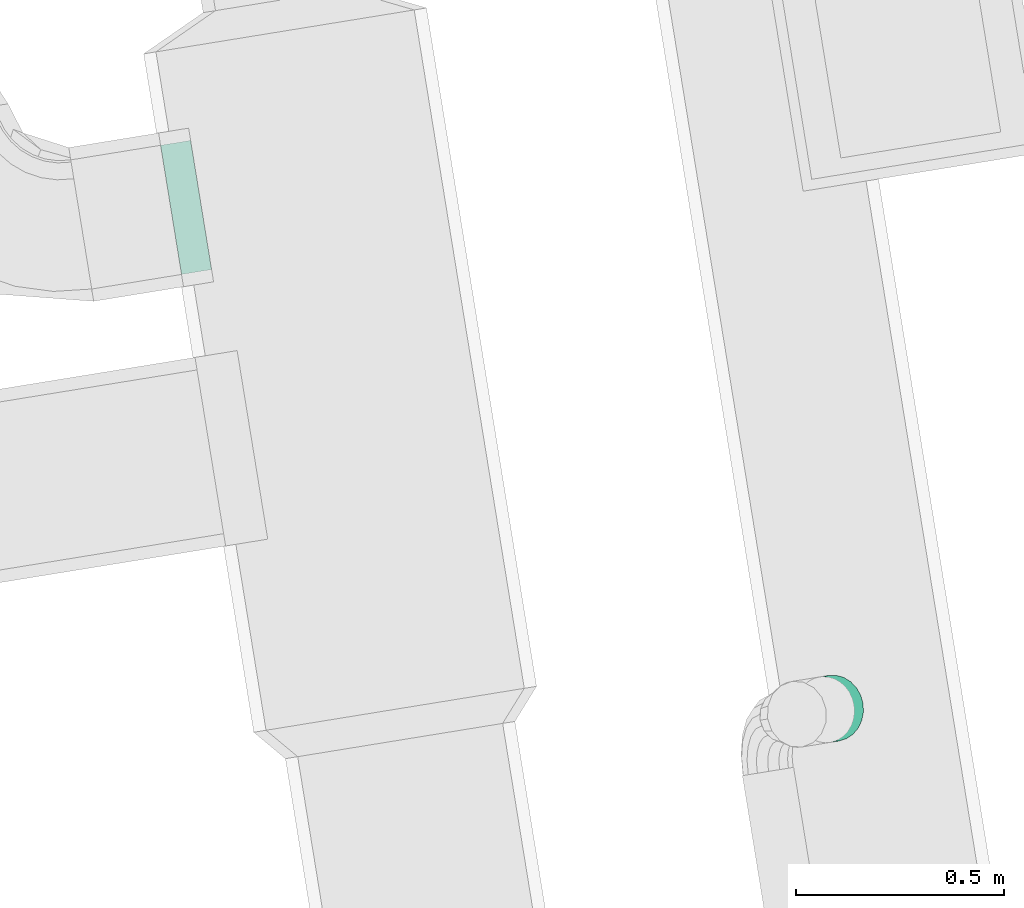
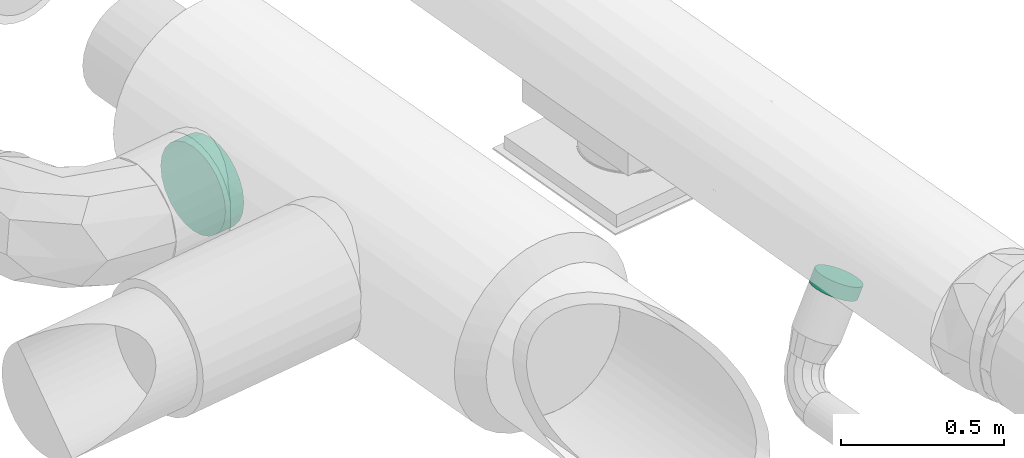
# One storey, part 34 of 39: 2 flow fittings.
"""IFC2X3 building model written with IfcOpenShell, lengths in millimetres."""

from ifc_helpers import new_model, entity, si_unit, converted_unit, derived_unit, direction, frame, origin, origin_with_axes, place, context, subcontext, project, spatial, faceted_brep, source, transform, mapped, material, type_object, element, save


model = new_model("IFC2X3")

# Units and contexts
plan_context = context("Plan", 3, precision=1e-05, world=origin_with_axes())
model_context = context("Model", 3, precision=0.01, world=origin(), true_north=direction((6.12323399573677e-17, 1.0)))
body_context = subcontext(model_context, "Body", "Model", "MODEL_VIEW")
ifc_project = project(units=[converted_unit("PLANEANGLEUNIT", "DEGREE", entity("IfcPositiveLengthMeasure", 0.0174532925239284), si_unit("PLANEANGLEUNIT", "RADIAN"), dimensions=[0, 0, 0, 0, 0, 0, 0]), si_unit("AREAUNIT", "SQUARE_METRE"), si_unit("LENGTHUNIT", "METRE", prefix="MILLI"), si_unit("MASSUNIT", "GRAM", prefix="KILO"), si_unit("POWERUNIT", "WATT"), si_unit("PRESSUREUNIT", "PASCAL", prefix="KILO"), si_unit("FORCEUNIT", "NEWTON", prefix="KILO"), si_unit("ELECTRICVOLTAGEUNIT", "VOLT"), si_unit("ELECTRICCURRENTUNIT", "AMPERE"), si_unit("THERMODYNAMICTEMPERATUREUNIT", "DEGREE_CELSIUS"), si_unit("TIMEUNIT", "SECOND"), si_unit("VOLUMEUNIT", "CUBIC_METRE"), derived_unit("LINEARVELOCITYUNIT", [(si_unit("LENGTHUNIT", "METRE"), 1), (si_unit("TIMEUNIT", "SECOND"), -1)]), derived_unit("VOLUMETRICFLOWRATEUNIT", [(si_unit("VOLUMEUNIT", "CUBIC_METRE"), 1), (si_unit("TIMEUNIT", "SECOND"), -1)]), derived_unit("THERMALTRANSMITTANCEUNIT", [(si_unit("POWERUNIT", "WATT"), 1), (si_unit("THERMODYNAMICTEMPERATUREUNIT", "KELVIN"), -1), (si_unit("AREAUNIT", "SQUARE_METRE"), -1)]), derived_unit("SOUNDPRESSUREUNIT", [(si_unit("PRESSUREUNIT", "PASCAL"), 1)])], contexts=[model_context, plan_context])

# Site, building, storey
site_placement = place(None, frame((-0.00071070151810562, 0.00438415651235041, 0.0), z_axis=(0.0, 0.0, 1.0), x_axis=(-0.160236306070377, 0.987078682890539, 0.0)))
site = spatial("IfcSite", under=ifc_project, at=site_placement, Name="Default", CompositionType="ELEMENT")
building_placement = place(site_placement, origin_with_axes())
building = spatial("IfcBuilding", under=site, at=building_placement, CompositionType="ELEMENT")
storey_placement = place(building_placement, frame((0.0, 0.0, 58999.9999999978), z_axis=(0.0, 0.0, 1.0), x_axis=(1.0, 0.0, 0.0)))
storey = spatial("IfcBuildingStorey", under=building, at=storey_placement, Name="Nivå F", CompositionType="ELEMENT", Elevation=58999.9999999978)

# Flow fittings
ifc_material = material(Name="<Unnamed>")
duct_fitting_type_1 = type_object("IfcDuctFittingType", Name="magicirc_tapoutlet_1:magicirc_tapoutlet_001", PredefinedType="NOTDEFINED", material=ifc_material)
shared_shape_1 = source(origin(), body_context, "Body", "Brep", [
    faceted_brep([(-48.3177170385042, 0.0, -157.500000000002), (-48.3177170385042, -40.7639996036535, -152.133317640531), (-48.3177170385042, -78.7500000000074, -136.399001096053), (-48.3177170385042, -111.36931803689, -111.369318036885), (-48.3177170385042, -136.399001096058, -78.7500000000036), (-48.3177170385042, -152.133317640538, -40.7639996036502), (-48.3177170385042, -157.500000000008, 0.0), (-48.3177170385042, -152.133317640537, 40.7639996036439), (-48.3177170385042, -136.399001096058, 78.749999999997), (-48.3177170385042, -111.36931803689, 111.369318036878), (-48.3177170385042, -78.7500000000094, 136.399001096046), (-48.3177170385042, -40.7639996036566, 152.133317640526), (-48.3177170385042, 0.0, 157.499999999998), (-48.3177170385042, 40.7639996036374, 152.133317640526), (-48.3177170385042, 78.7499999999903, 136.399001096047), (-48.3177170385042, 111.369318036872, 111.36931803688), (-48.3177170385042, 136.39900109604, 78.7499999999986), (-48.3177170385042, 152.133317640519, 40.7639996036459), (-48.3177170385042, 157.499999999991, 0.0), (-48.3177170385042, 152.13331764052, -40.7639996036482), (-48.3177170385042, 136.399001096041, -78.7500000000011), (-48.3177170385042, 111.369318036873, -111.369318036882), (-48.3177170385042, 78.7499999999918, -136.39900109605), (-48.3177170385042, 40.763999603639, -152.133317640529), (0.0, 0.0, 157.499999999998), (25.0, 0.0, 157.499999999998), (25.0, 40.7639996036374, 152.133317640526), (0.0, 40.7639996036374, 152.133317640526), (25.0, 78.7499999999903, 136.399001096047), (0.0, 78.7499999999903, 136.399001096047), (25.0, 111.369318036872, 111.36931803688), (0.0, 111.369318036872, 111.36931803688), (0.0, 136.39900109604, 78.7499999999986), (25.0, 136.39900109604, 78.7499999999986), (25.0, 152.133317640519, 40.7639996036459), (0.0, 152.133317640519, 40.7639996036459), (25.0, 157.499999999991, 0.0), (0.0, 157.499999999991, 0.0), (25.0, 152.13331764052, -40.7639996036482), (0.0, 152.13331764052, -40.7639996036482), (25.0, 136.399001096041, -78.7500000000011), (0.0, 136.399001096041, -78.7500000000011), (25.0, 111.369318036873, -111.369318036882), (0.0, 111.369318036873, -111.369318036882), (0.0, 40.763999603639, -152.133317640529), (25.0, 40.763999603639, -152.133317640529), (25.0, 0.0, -157.500000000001), (0.0, 0.0, -157.500000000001), (0.0, 78.7499999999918, -136.39900109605), (25.0, 78.7499999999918, -136.39900109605), (25.0, -40.7639996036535, -152.133317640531), (0.0, -40.7639996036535, -152.133317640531), (25.0, -78.7500000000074, -136.399001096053), (0.0, -78.7500000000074, -136.399001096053), (25.0, -111.36931803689, -111.369318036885), (0.0, -111.36931803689, -111.369318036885), (0.0, -136.399001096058, -78.7500000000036), (25.0, -136.399001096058, -78.7500000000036), (25.0, -152.133317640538, -40.7639996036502), (0.0, -152.133317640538, -40.7639996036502), (25.0, -157.50000000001, 0.0), (0.0, -157.50000000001, 0.0), (25.0, -152.133317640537, 40.7639996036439), (0.0, -152.133317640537, 40.763999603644), (25.0, -136.399001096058, 78.749999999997), (0.0, -136.399001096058, 78.749999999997), (25.0, -111.36931803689, 111.369318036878), (0.0, -111.36931803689, 111.369318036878), (0.0, -78.7500000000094, 136.399001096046), (25.0, -78.7500000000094, 136.399001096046), (25.0, -40.7639996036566, 152.133317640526), (0.0, -40.7639996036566, 152.133317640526)], [[[0, 1, 2, 3, 4, 5, 6, 7, 8, 9, 10, 11, 12, 13, 14, 15, 16, 17, 18, 19, 20, 21, 22, 23]], [[12, 24, 25, 26, 27, 13]], [[13, 27, 26, 28, 29, 14]], [[14, 29, 28, 30, 31, 15]], [[16, 32, 33, 34, 35, 17]], [[17, 35, 34, 36, 37, 18]], [[15, 31, 30, 33, 32, 16]], [[18, 37, 36, 38, 39, 19]], [[19, 39, 38, 40, 41, 20]], [[20, 41, 40, 42, 43, 21]], [[44, 45, 46, 47, 0, 23]], [[48, 49, 45, 44, 23, 22]], [[22, 21, 43, 42, 49, 48]], [[0, 47, 46, 50, 51, 1]], [[1, 51, 50, 52, 53, 2]], [[2, 53, 52, 54, 55, 3]], [[4, 56, 57, 58, 59, 5]], [[5, 59, 58, 60, 61, 6]], [[3, 55, 54, 57, 56, 4]], [[6, 61, 60, 62, 63, 7]], [[7, 63, 62, 64, 65, 8]], [[8, 65, 64, 66, 67, 9]], [[10, 68, 69, 70, 71, 11]], [[11, 71, 70, 25, 24, 12]], [[9, 67, 66, 69, 68, 10]], [[45, 49, 42, 40, 38, 36, 34, 33, 30, 28, 26, 25, 70, 69, 66, 64, 62, 60, 58, 57, 54, 52, 50, 46]]]),
    faceted_brep([(25.0, 40.763999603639, -152.133317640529), (25.0, 78.7499999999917, -136.39900109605), (25.0, 111.369318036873, -111.369318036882), (25.0, 136.399001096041, -78.7500000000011), (25.0, 152.13331764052, -40.7639996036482), (25.0, 157.499999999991, 0.0), (25.0, 152.133317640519, 40.7639996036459), (25.0, 136.399001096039, 78.7499999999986), (25.0, 111.369318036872, 111.36931803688), (25.0, 78.7499999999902, 136.399001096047), (25.0, 40.7639996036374, 152.133317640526), (25.0, 0.0, 157.499999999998), (25.0, -40.7639996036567, 152.133317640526), (25.0, -78.7500000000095, 136.399001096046), (25.0, -111.369318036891, 111.369318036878), (25.0, -136.399001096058, 78.749999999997), (25.0, -152.133317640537, 40.7639996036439), (25.0, -157.50000000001, 0.0), (25.0, -152.133317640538, -40.7639996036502), (25.0, -136.399001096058, -78.7500000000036), (25.0, -111.36931803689, -111.369318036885), (25.0, -78.7500000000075, -136.399001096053), (25.0, -40.7639996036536, -152.133317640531), (25.0, 0.0, -157.500000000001), (0.0, 0.0, 157.499999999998), (0.0, 40.7639996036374, 152.133317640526), (-48.3177170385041, 40.7639996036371, 152.133317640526), (-48.3177170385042, 0.0, 157.499999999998), (0.0, 78.7499999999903, 136.399001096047), (-48.3177170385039, 78.74999999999, 136.399001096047), (0.0, 111.369318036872, 111.36931803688), (-48.3177170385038, 111.369318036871, 111.36931803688), (0.0, 136.39900109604, 78.7499999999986), (0.0, 152.133317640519, 40.7639996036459), (-48.3177170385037, 152.133317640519, 40.7639996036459), (-48.3177170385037, 136.399001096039, 78.7499999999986), (0.0, 157.499999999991, 0.0), (-48.3177170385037, 157.499999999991, 0.0), (0.0, 152.13331764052, -40.7639996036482), (-48.3177170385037, 152.133317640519, -40.7639996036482), (0.0, 136.399001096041, -78.7500000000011), (-48.3177170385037, 136.39900109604, -78.7500000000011), (0.0, 111.369318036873, -111.369318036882), (-48.3177170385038, 111.369318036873, -111.369318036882), (0.0, 0.0, -157.500000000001), (-48.3177170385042, 0.0, -157.500000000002), (-48.3177170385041, 40.7639996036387, -152.133317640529), (0.0, 40.763999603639, -152.133317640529), (-48.3177170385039, 78.7499999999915, -136.39900109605), (0.0, 78.7499999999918, -136.39900109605), (0.0, -40.7639996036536, -152.133317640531), (-48.3177170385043, -40.7639996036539, -152.133317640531), (0.0, -78.7500000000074, -136.399001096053), (-48.3177170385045, -78.7500000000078, -136.399001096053), (0.0, -111.36931803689, -111.369318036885), (-48.3177170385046, -111.36931803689, -111.369318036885), (0.0, -136.399001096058, -78.7500000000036), (0.0, -152.133317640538, -40.7639996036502), (-48.3177170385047, -152.133317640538, -40.7639996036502), (-48.3177170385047, -136.399001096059, -78.7500000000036), (0.0, -157.50000000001, 0.0), (-48.3177170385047, -157.500000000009, 0.0), (0.0, -152.133317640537, 40.763999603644), (-48.3177170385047, -152.133317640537, 40.7639996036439), (0.0, -136.399001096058, 78.749999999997), (-48.3177170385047, -136.399001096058, 78.749999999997), (0.0, -111.36931803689, 111.369318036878), (-48.3177170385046, -111.369318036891, 111.369318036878), (0.0, -78.7500000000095, 136.399001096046), (0.0, -40.7639996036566, 152.133317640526), (-48.3177170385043, -40.763999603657, 152.133317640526), (-48.3177170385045, -78.7500000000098, 136.399001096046)], [[[0, 1, 2, 3, 4, 5, 6, 7, 8, 9, 10, 11, 12, 13, 14, 15, 16, 17, 18, 19, 20, 21, 22, 23]], [[24, 11, 10, 25, 26, 27]], [[25, 10, 9, 28, 29, 26]], [[28, 9, 8, 30, 31, 29]], [[32, 7, 6, 33, 34, 35]], [[33, 6, 5, 36, 37, 34]], [[30, 8, 7, 32, 35, 31]], [[36, 5, 4, 38, 39, 37]], [[38, 4, 3, 40, 41, 39]], [[40, 3, 2, 42, 43, 41]], [[0, 23, 44, 45, 46, 47]], [[1, 0, 47, 46, 48, 49]], [[49, 48, 43, 42, 2, 1]], [[44, 23, 22, 50, 51, 45]], [[50, 22, 21, 52, 53, 51]], [[52, 21, 20, 54, 55, 53]], [[56, 19, 18, 57, 58, 59]], [[57, 18, 17, 60, 61, 58]], [[54, 20, 19, 56, 59, 55]], [[60, 17, 16, 62, 63, 61]], [[62, 16, 15, 64, 65, 63]], [[64, 15, 14, 66, 67, 65]], [[68, 13, 12, 69, 70, 71]], [[69, 12, 11, 24, 27, 70]], [[66, 14, 13, 68, 71, 67]], [[45, 51, 53, 55, 59, 58, 61, 63, 65, 67, 71, 70, 27, 26, 29, 31, 35, 34, 37, 39, 41, 43, 48, 46]]]),
    faceted_brep([(-48.3177170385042, 0.0, -157.500000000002), (-48.3177170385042, -40.7639996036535, -152.133317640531), (-48.3177170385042, -78.7500000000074, -136.399001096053), (-48.3177170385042, -111.36931803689, -111.369318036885), (-48.3177170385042, -136.399001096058, -78.7500000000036), (-48.3177170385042, -152.133317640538, -40.7639996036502), (-48.3177170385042, -157.500000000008, 0.0), (-48.3177170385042, -152.133317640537, 40.7639996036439), (-48.3177170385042, -136.399001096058, 78.749999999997), (-48.3177170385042, -111.36931803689, 111.369318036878), (-48.3177170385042, -78.7500000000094, 136.399001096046), (-48.3177170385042, -40.7639996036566, 152.133317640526), (-48.3177170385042, 0.0, 157.499999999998), (-48.3177170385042, 40.7639996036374, 152.133317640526), (-48.3177170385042, 78.7499999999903, 136.399001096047), (-48.3177170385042, 111.369318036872, 111.36931803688), (-48.3177170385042, 136.39900109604, 78.7499999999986), (-48.3177170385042, 152.133317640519, 40.7639996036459), (-48.3177170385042, 157.499999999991, 0.0), (-48.3177170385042, 152.13331764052, -40.7639996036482), (-48.3177170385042, 136.399001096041, -78.7500000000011), (-48.3177170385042, 111.369318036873, -111.369318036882), (-48.3177170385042, 78.7499999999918, -136.39900109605), (-48.3177170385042, 40.763999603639, -152.133317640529), (0.0, 0.0, 157.499999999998), (25.0, 0.0, 157.499999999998), (25.0, 40.7639996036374, 152.133317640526), (0.0, 40.7639996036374, 152.133317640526), (25.0, 78.7499999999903, 136.399001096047), (0.0, 78.7499999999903, 136.399001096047), (25.0, 111.369318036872, 111.36931803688), (0.0, 111.369318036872, 111.36931803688), (0.0, 136.39900109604, 78.7499999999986), (25.0, 136.39900109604, 78.7499999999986), (25.0, 152.133317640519, 40.7639996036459), (0.0, 152.133317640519, 40.7639996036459), (25.0, 157.499999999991, 0.0), (0.0, 157.499999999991, 0.0), (25.0, 152.13331764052, -40.7639996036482), (0.0, 152.13331764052, -40.7639996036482), (25.0, 136.399001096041, -78.7500000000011), (0.0, 136.399001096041, -78.7500000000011), (25.0, 111.369318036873, -111.369318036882), (0.0, 111.369318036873, -111.369318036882), (0.0, 40.763999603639, -152.133317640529), (25.0, 40.763999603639, -152.133317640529), (25.0, 0.0, -157.500000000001), (0.0, 0.0, -157.500000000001), (0.0, 78.7499999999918, -136.39900109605), (25.0, 78.7499999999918, -136.39900109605), (25.0, -40.7639996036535, -152.133317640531), (0.0, -40.7639996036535, -152.133317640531), (25.0, -78.7500000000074, -136.399001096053), (0.0, -78.7500000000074, -136.399001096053), (25.0, -111.36931803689, -111.369318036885), (0.0, -111.36931803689, -111.369318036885), (0.0, -136.399001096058, -78.7500000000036), (25.0, -136.399001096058, -78.7500000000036), (25.0, -152.133317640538, -40.7639996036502), (0.0, -152.133317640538, -40.7639996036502), (25.0, -157.50000000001, 0.0), (0.0, -157.50000000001, 0.0), (25.0, -152.133317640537, 40.7639996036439), (0.0, -152.133317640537, 40.763999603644), (25.0, -136.399001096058, 78.749999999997), (0.0, -136.399001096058, 78.749999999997), (25.0, -111.36931803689, 111.369318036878), (0.0, -111.36931803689, 111.369318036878), (0.0, -78.7500000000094, 136.399001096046), (25.0, -78.7500000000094, 136.399001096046), (25.0, -40.7639996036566, 152.133317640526), (0.0, -40.7639996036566, 152.133317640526)], [[[0, 1, 2, 3, 4, 5, 6, 7, 8, 9, 10, 11, 12, 13, 14, 15, 16, 17, 18, 19, 20, 21, 22, 23]], [[12, 24, 25, 26, 27, 13]], [[13, 27, 26, 28, 29, 14]], [[14, 29, 28, 30, 31, 15]], [[16, 32, 33, 34, 35, 17]], [[17, 35, 34, 36, 37, 18]], [[15, 31, 30, 33, 32, 16]], [[18, 37, 36, 38, 39, 19]], [[19, 39, 38, 40, 41, 20]], [[20, 41, 40, 42, 43, 21]], [[44, 45, 46, 47, 0, 23]], [[48, 49, 45, 44, 23, 22]], [[22, 21, 43, 42, 49, 48]], [[0, 47, 46, 50, 51, 1]], [[1, 51, 50, 52, 53, 2]], [[2, 53, 52, 54, 55, 3]], [[4, 56, 57, 58, 59, 5]], [[5, 59, 58, 60, 61, 6]], [[3, 55, 54, 57, 56, 4]], [[6, 61, 60, 62, 63, 7]], [[7, 63, 62, 64, 65, 8]], [[8, 65, 64, 66, 67, 9]], [[10, 68, 69, 70, 71, 11]], [[11, 71, 70, 25, 24, 12]], [[9, 67, 66, 69, 68, 10]], [[45, 49, 42, 40, 38, 36, 34, 33, 30, 28, 26, 25, 70, 69, 66, 64, 62, 60, 58, 57, 54, 52, 50, 46]]]),
])
flow_fitting_1_placement = place(storey_placement, frame((776597.222116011, -501863.834706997, 3130.0), z_axis=(0.0, 0.0, 1.0), x_axis=(0.0, 1.0, 0.0)))
element("IfcFlowFitting", 1, at=flow_fitting_1_placement, inside=storey, type_object=duct_fitting_type_1, material=ifc_material, Name="magicirc_tapoutlet_1:magicirc_tapoutlet_001", ObjectType="magicirc_tapoutlet_1:magicirc_tapoutlet_001", context=body_context, shape_type="MappedRepresentation", body=[
    mapped(shared_shape_1, transform((0.0, 0.0, 0.0), scale=1.0)),
])
duct_fitting_type_2 = type_object("IfcDuctFittingType", Name="magicirc_tapoutlet_1:magicirc_tapoutlet_001", PredefinedType="NOTDEFINED", material=ifc_material)
shared_shape_2 = source(origin(), body_context, "Body", "Brep", [
    faceted_brep([(-22.7953626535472, 0.0, -80.0), (-22.7953626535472, -20.7055236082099, -77.274066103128), (-22.7953626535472, -40.0, -69.282032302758), (-22.7953626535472, -56.5685424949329, -56.5685424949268), (-22.7953626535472, -69.2820323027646, -40.0), (-22.7953626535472, -77.2740661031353, -20.7055236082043), (-22.7953626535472, -80.0, 0.0), (-22.7953626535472, -77.2740661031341, 20.7055236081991), (-22.7953626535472, -69.2820323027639, 40.0), (-22.7953626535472, -56.5685424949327, 56.5685424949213), (-22.7953626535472, -40.0, 69.2820323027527), (-22.7953626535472, -20.7055236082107, 77.2740661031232), (-22.7953626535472, 0.0, 80.0), (-22.7953626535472, 20.7055236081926, 77.2740661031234), (-22.7953626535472, 40.0, 69.2820323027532), (-22.7953626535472, 56.5685424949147, 56.568542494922), (-22.7953626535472, 69.2820323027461, 40.0), (-22.7953626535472, 77.2740661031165, 20.7055236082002), (-22.7953626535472, 80.0, 0.0), (-22.7953626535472, 77.2740661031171, -20.705523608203), (-22.7953626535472, 69.2820323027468, -40.0), (-22.7953626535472, 56.5685424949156, -56.568542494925), (-22.7953626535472, 40.0, -69.2820323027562), (-22.7953626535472, 20.7055236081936, -77.2740661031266), (0.0, 0.0, 80.0), (25.0, 0.0, 80.0), (25.0, 20.7055236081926, 77.2740661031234), (0.0, 20.7055236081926, 77.2740661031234), (25.0, 40.0, 69.2820323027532), (0.0, 40.0, 69.2820323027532), (25.0, 56.5685424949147, 56.568542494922), (0.0, 56.5685424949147, 56.568542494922), (0.0, 69.2820323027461, 40.0), (25.0, 69.2820323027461, 40.0), (25.0, 77.2740661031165, 20.7055236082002), (0.0, 77.2740661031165, 20.7055236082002), (25.0, 80.0, 0.0), (0.0, 80.0, 0.0), (25.0, 77.2740661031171, -20.705523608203), (0.0, 77.2740661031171, -20.705523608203), (25.0, 69.2820323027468, -40.0), (0.0, 69.2820323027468, -40.0), (25.0, 56.5685424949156, -56.568542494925), (0.0, 56.5685424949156, -56.568542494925), (0.0, 20.7055236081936, -77.2740661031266), (25.0, 20.7055236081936, -77.2740661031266), (25.0, 0.0, -80.0), (0.0, 0.0, -80.0), (0.0, 40.0, -69.2820323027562), (25.0, 40.0, -69.2820323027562), (25.0, -20.7055236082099, -77.274066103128), (0.0, -20.7055236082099, -77.274066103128), (25.0, -40.0, -69.282032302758), (0.0, -40.0, -69.282032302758), (25.0, -56.5685424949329, -56.5685424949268), (0.0, -56.5685424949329, -56.5685424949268), (0.0, -69.2820323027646, -40.0), (25.0, -69.2820323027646, -40.0), (25.0, -77.2740661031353, -20.7055236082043), (0.0, -77.2740661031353, -20.7055236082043), (25.0, -80.0, 0.0), (0.0, -80.0, 0.0), (25.0, -77.2740661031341, 20.7055236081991), (0.0, -77.2740661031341, 20.7055236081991), (25.0, -69.2820323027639, 40.0), (0.0, -69.2820323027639, 40.0), (25.0, -56.5685424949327, 56.5685424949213), (0.0, -56.5685424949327, 56.5685424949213), (0.0, -40.0, 69.2820323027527), (25.0, -40.0, 69.2820323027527), (25.0, -20.7055236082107, 77.2740661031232), (0.0, -20.7055236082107, 77.2740661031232)], [[[0, 1, 2, 3, 4, 5, 6, 7, 8, 9, 10, 11, 12, 13, 14, 15, 16, 17, 18, 19, 20, 21, 22, 23]], [[12, 24, 25, 26, 27, 13]], [[13, 27, 26, 28, 29, 14]], [[14, 29, 28, 30, 31, 15]], [[16, 32, 33, 34, 35, 17]], [[17, 35, 34, 36, 37, 18]], [[15, 31, 30, 33, 32, 16]], [[18, 37, 36, 38, 39, 19]], [[19, 39, 38, 40, 41, 20]], [[20, 41, 40, 42, 43, 21]], [[44, 45, 46, 47, 0, 23]], [[48, 49, 45, 44, 23, 22]], [[21, 43, 42, 49, 48, 22]], [[0, 47, 46, 50, 51, 1]], [[1, 51, 50, 52, 53, 2]], [[2, 53, 52, 54, 55, 3]], [[4, 56, 57, 58, 59, 5]], [[5, 59, 58, 60, 61, 6]], [[3, 55, 54, 57, 56, 4]], [[6, 61, 60, 62, 63, 7]], [[7, 63, 62, 64, 65, 8]], [[8, 65, 64, 66, 67, 9]], [[10, 68, 69, 70, 71, 11]], [[11, 71, 70, 25, 24, 12]], [[9, 67, 66, 69, 68, 10]], [[36, 34, 33, 30, 28, 26, 25, 70, 69, 66, 64, 62, 60, 58, 57, 54, 52, 50, 46, 45, 49, 42, 40, 38]]]),
    faceted_brep([(25.0, 80.0, 0.0), (25.0, 77.2740661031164, 20.7055236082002), (25.0, 69.282032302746, 40.0), (25.0, 56.5685424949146, 56.568542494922), (25.0, 40.0, 69.2820323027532), (25.0, 20.7055236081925, 77.2740661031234), (25.0, 0.0, 80.0), (25.0, -20.7055236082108, 77.2740661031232), (25.0, -40.0, 69.2820323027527), (25.0, -56.5685424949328, 56.5685424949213), (25.0, -69.282032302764, 40.0), (25.0, -77.2740661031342, 20.7055236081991), (25.0, -80.0, 0.0), (25.0, -77.2740661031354, -20.7055236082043), (25.0, -69.2820323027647, -40.0), (25.0, -56.568542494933, -56.5685424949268), (25.0, -40.0, -69.282032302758), (25.0, -20.70552360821, -77.274066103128), (25.0, 0.0, -80.0), (25.0, 20.7055236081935, -77.2740661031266), (25.0, 40.0, -69.2820323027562), (25.0, 56.5685424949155, -56.568542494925), (25.0, 69.2820323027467, -40.0), (25.0, 77.2740661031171, -20.705523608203), (0.0, 0.0, 80.0), (0.0, 20.7055236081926, 77.2740661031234), (-22.7953626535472, 20.7055236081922, 77.2740661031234), (-22.7953626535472, 0.0, 80.0), (0.0, 40.0, 69.2820323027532), (-22.7953626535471, 40.0, 69.2820323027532), (0.0, 56.5685424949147, 56.568542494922), (-22.7953626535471, 56.5685424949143, 56.568542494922), (0.0, 69.282032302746, 40.0), (0.0, 77.2740661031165, 20.7055236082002), (-22.795362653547, 77.2740661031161, 20.7055236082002), (-22.795362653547, 69.2820323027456, 40.0), (0.0, 80.0, 0.0), (-22.795362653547, 80.0, 0.0), (0.0, 77.2740661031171, -20.705523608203), (-22.795362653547, 77.2740661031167, -20.705523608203), (0.0, 69.2820323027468, -40.0), (-22.795362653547, 69.2820323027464, -40.0), (0.0, 56.5685424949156, -56.568542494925), (-22.7953626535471, 56.5685424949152, -56.568542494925), (0.0, 0.0, -80.0), (-22.7953626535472, 0.0, -80.0), (-22.7953626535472, 20.7055236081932, -77.2740661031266), (0.0, 20.7055236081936, -77.2740661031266), (-22.7953626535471, 40.0, -69.2820323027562), (0.0, 40.0, -69.2820323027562), (0.0, -20.7055236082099, -77.274066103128), (-22.7953626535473, -20.7055236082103, -77.274066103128), (0.0, -40.0, -69.282032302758), (-22.7953626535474, -40.0, -69.282032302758), (0.0, -56.568542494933, -56.5685424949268), (-22.7953626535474, -56.5685424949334, -56.5685424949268), (0.0, -69.2820323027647, -40.0), (0.0, -77.2740661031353, -20.7055236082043), (-22.7953626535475, -77.2740661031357, -20.7055236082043), (-22.7953626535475, -69.2820323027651, -40.0), (0.0, -80.0, 0.0), (-22.7953626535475, -80.0, 0.0), (0.0, -77.2740661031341, 20.7055236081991), (-22.7953626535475, -77.2740661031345, 20.7055236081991), (0.0, -69.2820323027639, 40.0), (-22.7953626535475, -69.2820323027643, 40.0), (0.0, -56.5685424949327, 56.5685424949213), (-22.7953626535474, -56.5685424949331, 56.5685424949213), (0.0, -40.0, 69.2820323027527), (0.0, -20.7055236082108, 77.2740661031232), (-22.7953626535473, -20.7055236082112, 77.2740661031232), (-22.7953626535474, -40.0, 69.2820323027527)], [[[0, 1, 2, 3, 4, 5, 6, 7, 8, 9, 10, 11, 12, 13, 14, 15, 16, 17, 18, 19, 20, 21, 22, 23]], [[24, 6, 5, 25, 26, 27]], [[25, 5, 4, 28, 29, 26]], [[28, 4, 3, 30, 31, 29]], [[32, 2, 1, 33, 34, 35]], [[33, 1, 0, 36, 37, 34]], [[30, 3, 2, 32, 35, 31]], [[36, 0, 23, 38, 39, 37]], [[38, 23, 22, 40, 41, 39]], [[40, 22, 21, 42, 43, 41]], [[19, 18, 44, 45, 46, 47]], [[20, 19, 47, 46, 48, 49]], [[42, 21, 20, 49, 48, 43]], [[44, 18, 17, 50, 51, 45]], [[50, 17, 16, 52, 53, 51]], [[52, 16, 15, 54, 55, 53]], [[56, 14, 13, 57, 58, 59]], [[57, 13, 12, 60, 61, 58]], [[54, 15, 14, 56, 59, 55]], [[60, 12, 11, 62, 63, 61]], [[62, 11, 10, 64, 65, 63]], [[64, 10, 9, 66, 67, 65]], [[68, 8, 7, 69, 70, 71]], [[69, 7, 6, 24, 27, 70]], [[66, 9, 8, 68, 71, 67]], [[45, 51, 53, 55, 59, 58, 61, 63, 65, 67, 71, 70, 27, 26, 29, 31, 35, 34, 37, 39, 41, 43, 48, 46]]]),
    faceted_brep([(-22.7953626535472, 0.0, -80.0), (-22.7953626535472, -20.7055236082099, -77.274066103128), (-22.7953626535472, -40.0, -69.282032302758), (-22.7953626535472, -56.5685424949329, -56.5685424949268), (-22.7953626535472, -69.2820323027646, -40.0), (-22.7953626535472, -77.2740661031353, -20.7055236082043), (-22.7953626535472, -80.0, 0.0), (-22.7953626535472, -77.2740661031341, 20.7055236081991), (-22.7953626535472, -69.2820323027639, 40.0), (-22.7953626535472, -56.5685424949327, 56.5685424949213), (-22.7953626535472, -40.0, 69.2820323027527), (-22.7953626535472, -20.7055236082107, 77.2740661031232), (-22.7953626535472, 0.0, 80.0), (-22.7953626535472, 20.7055236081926, 77.2740661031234), (-22.7953626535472, 40.0, 69.2820323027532), (-22.7953626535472, 56.5685424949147, 56.568542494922), (-22.7953626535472, 69.2820323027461, 40.0), (-22.7953626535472, 77.2740661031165, 20.7055236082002), (-22.7953626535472, 80.0, 0.0), (-22.7953626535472, 77.2740661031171, -20.705523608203), (-22.7953626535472, 69.2820323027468, -40.0), (-22.7953626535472, 56.5685424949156, -56.568542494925), (-22.7953626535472, 40.0, -69.2820323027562), (-22.7953626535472, 20.7055236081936, -77.2740661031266), (0.0, 0.0, 80.0), (25.0, 0.0, 80.0), (25.0, 20.7055236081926, 77.2740661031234), (0.0, 20.7055236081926, 77.2740661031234), (25.0, 40.0, 69.2820323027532), (0.0, 40.0, 69.2820323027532), (25.0, 56.5685424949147, 56.568542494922), (0.0, 56.5685424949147, 56.568542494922), (0.0, 69.2820323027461, 40.0), (25.0, 69.2820323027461, 40.0), (25.0, 77.2740661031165, 20.7055236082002), (0.0, 77.2740661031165, 20.7055236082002), (25.0, 80.0, 0.0), (0.0, 80.0, 0.0), (25.0, 77.2740661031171, -20.705523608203), (0.0, 77.2740661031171, -20.705523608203), (25.0, 69.2820323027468, -40.0), (0.0, 69.2820323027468, -40.0), (25.0, 56.5685424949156, -56.568542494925), (0.0, 56.5685424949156, -56.568542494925), (0.0, 20.7055236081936, -77.2740661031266), (25.0, 20.7055236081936, -77.2740661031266), (25.0, 0.0, -80.0), (0.0, 0.0, -80.0), (0.0, 40.0, -69.2820323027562), (25.0, 40.0, -69.2820323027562), (25.0, -20.7055236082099, -77.274066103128), (0.0, -20.7055236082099, -77.274066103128), (25.0, -40.0, -69.282032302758), (0.0, -40.0, -69.282032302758), (25.0, -56.5685424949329, -56.5685424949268), (0.0, -56.5685424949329, -56.5685424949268), (0.0, -69.2820323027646, -40.0), (25.0, -69.2820323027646, -40.0), (25.0, -77.2740661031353, -20.7055236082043), (0.0, -77.2740661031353, -20.7055236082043), (25.0, -80.0, 0.0), (0.0, -80.0, 0.0), (25.0, -77.2740661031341, 20.7055236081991), (0.0, -77.2740661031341, 20.7055236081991), (25.0, -69.2820323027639, 40.0), (0.0, -69.2820323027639, 40.0), (25.0, -56.5685424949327, 56.5685424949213), (0.0, -56.5685424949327, 56.5685424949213), (0.0, -40.0, 69.2820323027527), (25.0, -40.0, 69.2820323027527), (25.0, -20.7055236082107, 77.2740661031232), (0.0, -20.7055236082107, 77.2740661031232)], [[[0, 1, 2, 3, 4, 5, 6, 7, 8, 9, 10, 11, 12, 13, 14, 15, 16, 17, 18, 19, 20, 21, 22, 23]], [[12, 24, 25, 26, 27, 13]], [[13, 27, 26, 28, 29, 14]], [[14, 29, 28, 30, 31, 15]], [[16, 32, 33, 34, 35, 17]], [[17, 35, 34, 36, 37, 18]], [[15, 31, 30, 33, 32, 16]], [[18, 37, 36, 38, 39, 19]], [[19, 39, 38, 40, 41, 20]], [[20, 41, 40, 42, 43, 21]], [[44, 45, 46, 47, 0, 23]], [[48, 49, 45, 44, 23, 22]], [[21, 43, 42, 49, 48, 22]], [[0, 47, 46, 50, 51, 1]], [[1, 51, 50, 52, 53, 2]], [[2, 53, 52, 54, 55, 3]], [[4, 56, 57, 58, 59, 5]], [[5, 59, 58, 60, 61, 6]], [[3, 55, 54, 57, 56, 4]], [[6, 61, 60, 62, 63, 7]], [[7, 63, 62, 64, 65, 8]], [[8, 65, 64, 66, 67, 9]], [[10, 68, 69, 70, 71, 11]], [[11, 71, 70, 25, 24, 12]], [[9, 67, 66, 69, 68, 10]], [[36, 34, 33, 30, 28, 26, 25, 70, 69, 66, 64, 62, 60, 58, 57, 54, 52, 50, 46, 45, 49, 42, 40, 38]]]),
])
flow_fitting_2_placement = place(storey_placement, frame((775156.89142341, -503211.579665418, 2951.7911224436), z_axis=(-1.0, 2.47317948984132e-17, 1.25980275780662e-17), x_axis=(0.0, 0.453891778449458, -0.891056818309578)))
element("IfcFlowFitting", 2, at=flow_fitting_2_placement, inside=storey, type_object=duct_fitting_type_2, material=ifc_material, Name="magicirc_tapoutlet_1:magicirc_tapoutlet_001", ObjectType="magicirc_tapoutlet_1:magicirc_tapoutlet_001", context=body_context, shape_type="MappedRepresentation", body=[
    mapped(shared_shape_2, transform((0.0, 0.0, 0.0), scale=1.0)),
])

save(model, "model.ifc")
